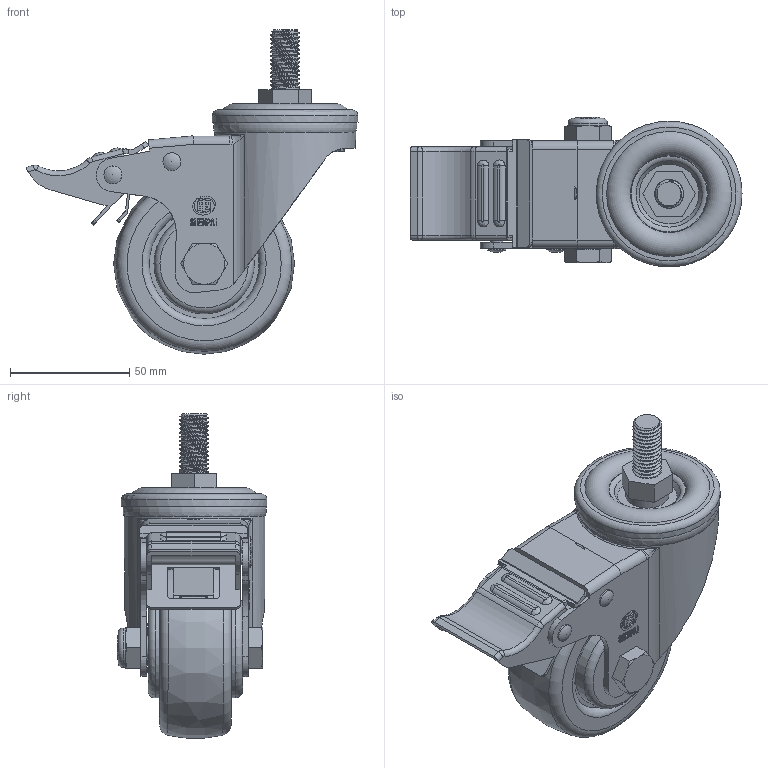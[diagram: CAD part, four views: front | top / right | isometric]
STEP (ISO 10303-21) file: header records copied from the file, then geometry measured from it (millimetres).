
FILE_DESCRIPTION(/* description */ (''),/* implementation_level */ '2;1');
FILE_NAME(/* name */ '20D14_3_F.stp',/* time_stamp */ '2022-10-17T12:47:44+08:00',/* author */ (''),/* organization */ (''),/* preprocessor_version */ 'ST-DEVELOPER v14',/* originating_system */ 'SIEMENS PLM Software NX 8.0',/* authorisation */ '');
FILE_SCHEMA (('AUTOMOTIVE_DESIGN { 1 0 10303 214 3 1 1 1 }'));
Length unit declared in the file: millimetre
Products named in the file (1): 20D14_3_F
Bounding box: 138.97 x 62.77 x 135.75 mm (x, y, z)
Volume: 193811.6 mm3; surface area: 91223.8 mm2
Topology: 1 solids, 1 shells, 967 faces, 2957 edges, 1959 vertices
Faces by surface type: plane 409, cylinder 267, torus 99, sphere 96, cone 74, bspline 22
Full cylindrical faces by diameter (mm): 4 x2, 5 x2, 5.2 x7, 7.5 x2, 10 x2, 10.3 x2, 11.2 x2, 12 x1, 12.2 x1, 12.496 x1, 13.2 x4, 16 x1, 16.5 x1, 17 x1, 18 x1, 20.8 x4, 23.2 x2, 24 x1, 30.122 x1, 33 x2, 41 x2, 42 x2, 45.996 x1, 46 x2, 54 x1, 56 x1, 57.6 x1, 59 x1, 61 x1
Entity records: 42047 total; most frequent: CARTESIAN_POINT 18399, ORIENTED_EDGE 5136, DIRECTION 4495, EDGE_CURVE 2568, AXIS2_PLACEMENT_3D 1782, VERTEX_POINT 1763, EDGE_LOOP 1235, ADVANCED_FACE 960
